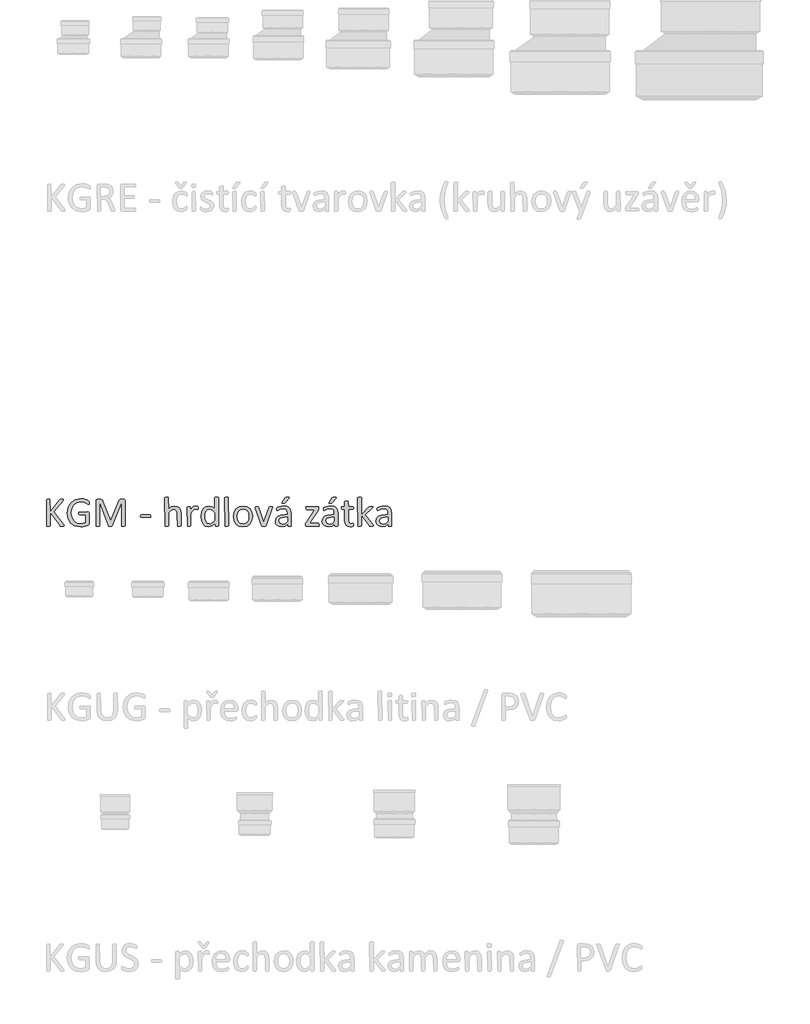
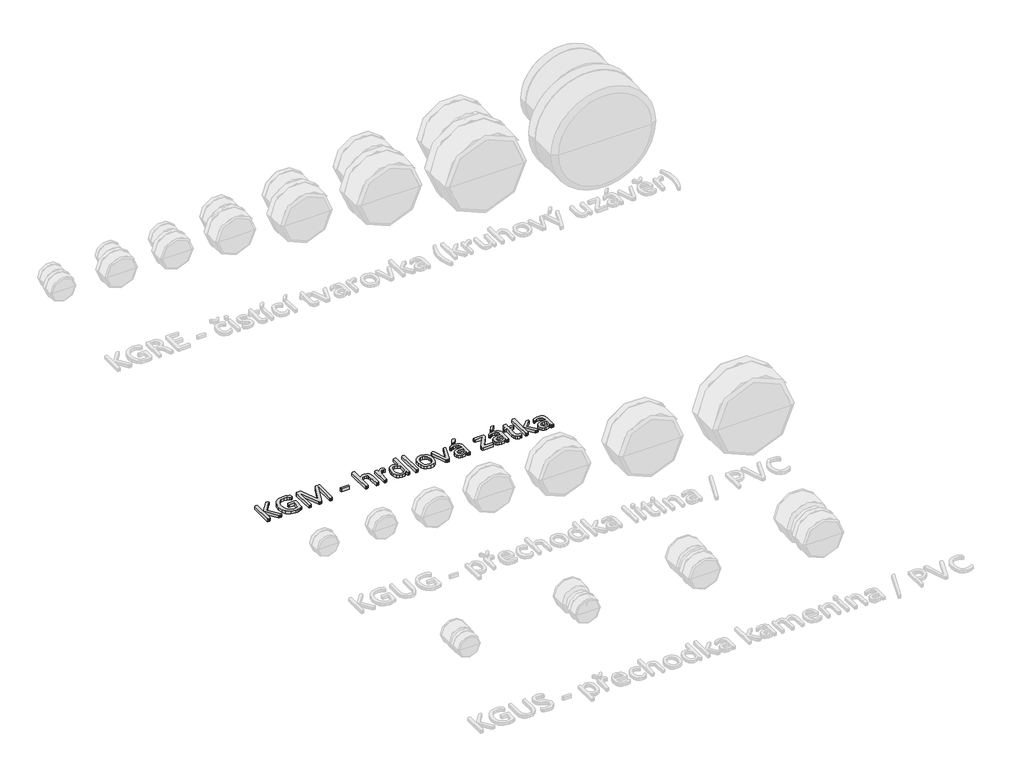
# One storey, part 6 of 11: 1 proxy.
"""IFC4 building model written with IfcOpenShell, lengths in millimetres."""

from ifc_helpers import new_model, si_unit, origin, origin_with_axes, place, context, project, spatial, polyline, outline, extrude, element, save

model = new_model("IFC4")

# Units and contexts
model_context = context("Model", 3, world=origin())
ifc_project = project(units=[si_unit("LENGTHUNIT", "METRE", prefix="MILLI")], contexts=[model_context])

# Site, building, storey
site = spatial("IfcSite", under=ifc_project)
building = spatial("IfcBuilding", under=site)
storey = spatial("IfcBuildingStorey", under=building, Name="Podlaží 1", Elevation=0.0)

# Proxy
placement = place(None, origin())
element("IfcBuildingElementProxy", 1, Name="120mm Arial", ObjectType="120mm Arial", at=placement, inside=storey, context=model_context, shape_type="SweptSolid", body=[
    extrude(outline(polyline([(-20477.3940185, 6417.4794852), (-20478.8234835, 6414.4577047), (-20481.3386182, 6413.8605864), (-20485.4098794, 6413.625358), (-20490.6934717, 6413.8967754), (-20493.7514412, 6414.910067), (-20495.4342292, 6416.592855), (-20539.5486061, 6476.232308), (-20539.5486061, 6416.592855), (-20541.2494886, 6414.4215157), (-20543.7465288, 6413.8605864), (-20547.6549395, 6413.625358), (-20551.5271613, 6413.8605864), (-20554.0603905, 6414.4215157), (-20555.3812885, 6415.3443349), (-20555.3812885, 6531.0948144), (-20551.5271613, 6533.8270831), (-20547.6549395, 6534.0623115), (-20543.7465288, 6533.8270831), (-20541.2494886, 6533.2661537), (-20539.5486061, 6478.0779464), (-20497.0989227, 6531.0948144), (-20495.7780246, 6532.4880905), (-20493.9866697, 6533.3747207), (-20491.399157, 6533.8813665), (-20487.4364628, 6534.0623115), (-20483.564241, 6533.8270831), (-20481.1938622, 6533.2299647), (-20480.2529486, 6528.7063412), (-20482.5509493, 6525.3769543), (-20522.3226476, 6478.0779464), (-20479.4748853, 6421.4783685), (-20477.3940185, 6417.4794852)])), origin_with_axes(), (0.0, 0.0, 1.0), 15.0),
    extrude(outline(polyline([(-20365.8414616, 6518.2839125), (-20366.0224065, 6515.0088091), (-20366.5833359, 6512.6384303), (-20367.5242496, 6511.2994378), (-20372.4278575, 6512.7108083), (-20379.4123323, 6516.691597), (-20389.8709499, 6520.6723858), (-20404.3103563, 6522.4818352), (-20422.1696221, 6518.8086529), (-20435.5595478, 6508.6395471), (-20443.9734876, 6493.2049435), (-20446.9047957, 6473.8076457), (-20443.7020702, 6453.0713554), (-20434.8176736, 6437.8176967), (-20421.2648974, 6428.4085597), (-20404.0208444, 6425.2058343), (-20392.693691, 6426.5267323), (-20382.0541284, 6430.4532376), (-20382.0541284, 6464.5794537), (-20409.0873028, 6464.5794537), (-20411.403398, 6466.2622416), (-20412.1633668, 6471.4915505), (-20411.9824219, 6474.6761815), (-20411.3853036, 6476.8475208), (-20371.4145658, 6478.4760252), (-20369.406077, 6478.1141354), (-20367.578533, 6477.0103712), (-20366.293824, 6474.9656934), (-20365.8414616, 6471.9981963), (-20365.8414616, 6426.4000709), (-20366.6738083, 6422.2202427), (-20370.2022347, 6419.1260842), (-20377.1505205, 6416.2128706), (-20385.9444447, 6413.5348855), (-20395.1183533, 6411.870192), (-20404.2741673, 6411.3092627), (-20429.1179079, 6415.6881303), (-20447.610481, 6428.1552368), (-20459.1366738, 6447.5163456), (-20463.1174625, 6472.7219761), (-20458.8290674, 6498.9589927), (-20446.7238508, 6518.9895978), (-20427.9598603, 6531.8185942), (-20403.7313325, 6536.3784067), (-20390.8842416, 6535.2022646), (-20380.20849, 6532.4519015), (-20372.3554795, 6529.0139476), (-20367.9766119, 6525.9740726), (-20366.3119185, 6523.1151425), (-20365.8414616, 6518.2839125)])), origin_with_axes(), (0.0, 0.0, 1.0), 15.0),
    extrude(outline(polyline([(-20206.0308887, 6416.592855), (-20207.7679601, 6414.4215157), (-20210.2469058, 6413.8605864), (-20214.1734111, 6413.625358), (-20218.0275383, 6413.8605864), (-20220.5607675, 6414.4215157), (-20222.2435555, 6520.9980867), (-20263.6437583, 6416.1223982), (-20265.9236645, 6414.2405708), (-20268.2397598, 6413.7701139), (-20271.4243908, 6413.625358), (-20274.7718722, 6413.8063029), (-20277.106062, 6414.3129487), (-20278.5536215, 6415.1091065), (-20319.4471784, 6520.9980867), (-20319.4471784, 6416.592855), (-20321.2566278, 6414.4215157), (-20323.789857, 6413.8605864), (-20327.7706458, 6413.625358), (-20331.6428675, 6413.8605864), (-20334.1218132, 6414.4215157), (-20335.7322232, 6526.8245138), (-20333.6513564, 6532.397618), (-20329.0010714, 6534.0623115), (-20319.1214775, 6534.0623115), (-20313.8016962, 6533.5013822), (-20309.8209075, 6531.7462162), (-20306.9800719, 6528.6882467), (-20304.9715831, 6524.3274736), (-20270.8815559, 6437.5100903), (-20235.7782372, 6524.0741507), (-20233.4983309, 6528.7968137), (-20230.7841568, 6531.8909722), (-20227.5090533, 6533.5556656), (-20223.3292251, 6534.0623115), (-20212.9791744, 6534.0623115), (-20210.2469058, 6533.6461381), (-20208.0755665, 6532.3433345), (-20206.6099125, 6530.1177117), (-20206.0308887, 6526.8245138), (-20206.0308887, 6416.592855)])), origin_with_axes(), (0.0, 0.0, 1.0), 15.0),
    extrude(outline(polyline([(-20092.5422209, 6458.8254045), (-20093.3926622, 6454.265592), (-20095.8716079, 6452.9989774), (-20135.4623612, 6452.9989774), (-20138.0136849, 6454.301781), (-20138.8641261, 6458.8254045), (-20138.0136849, 6463.3128391), (-20135.4623612, 6464.5794537), (-20095.8716079, 6464.5794537), (-20092.7774493, 6461.5395787), (-20092.5422209, 6458.8254045)])), origin_with_axes(), (0.0, 0.0, 1.0), 15.0),
    extrude(outline(polyline([(-19958.2086958, 6416.484288), (-19962.3342405, 6413.8063029), (-19966.2788403, 6413.625358), (-19970.295818, 6413.8063029), (-19972.7385747, 6414.3491377), (-19974.4213627, 6464.8327766), (-19975.4889378, 6476.196119), (-19978.5830963, 6483.6329561), (-19983.8485942, 6488.4099026), (-19991.3216203, 6490.0565015), (-20002.3049783, 6486.0214293), (-20013.7949821, 6474.1695356), (-20013.7949821, 6416.484288), (-20017.9205268, 6413.8063029), (-20021.9375045, 6413.625358), (-20025.8821042, 6413.8063029), (-20028.3791444, 6414.3672322), (-20030.0076489, 6540.3591955), (-20025.8821042, 6543.1457476), (-20021.9375045, 6543.3266925), (-20017.9205268, 6543.1457476), (-20015.47777, 6542.5848183), (-20014.193061, 6541.6439046), (-20013.7949821, 6490.2736355), (-20000.7669462, 6500.5874972), (-19987.5579655, 6503.9530731), (-19973.7337719, 6501.130332), (-19964.6684303, 6493.5849279), (-19959.7105389, 6482.5291919), (-19958.2086958, 6467.2212498), (-19958.2086958, 6416.484288)])), origin_with_axes(), (0.0, 0.0, 1.0), 15.0),
    extrude(outline(polyline([(-19881.7775523, 6494.6886921), (-19881.8680247, 6491.3954941), (-19882.2299146, 6489.2603438), (-19885.7764355, 6488.0480127), (-19888.1106252, 6488.8803594), (-19891.0238388, 6489.6765172), (-19894.5160762, 6490.0565015), (-19898.9311328, 6489.0613044), (-19903.4728508, 6485.8042954), (-19908.4488367, 6479.7969233), (-19914.2028859, 6470.6230147), (-19914.2028859, 6416.4480991), (-19918.3284306, 6413.8063029), (-19922.3454083, 6413.625358), (-19926.290008, 6413.8063029), (-19928.7870482, 6414.3491377), (-19930.4155527, 6498.8142367), (-19926.6880869, 6501.4922219), (-19923.0329991, 6501.6369778), (-19919.4502892, 6501.4922219), (-19917.2427609, 6500.9493871), (-19915.7590124, 6486.7994926), (-19909.4983174, 6495.3762828), (-19903.9433077, 6500.6055917), (-19898.7682823, 6503.2292933), (-19893.5751625, 6503.9530731), (-19890.9333663, 6503.8264116), (-19887.8211133, 6503.3378603), (-19884.8898053, 6502.5236081), (-19883.0441669, 6501.6369778), (-19881.8137413, 6497.945701), (-19881.7775523, 6494.6886921)])), origin_with_axes(), (0.0, 0.0, 1.0), 15.0),
    extrude(outline(polyline([(-19791.775538, 6416.520477), (-19795.1592084, 6413.8063029), (-19798.4705009, 6413.625358), (-19801.9084548, 6413.8063029), (-19804.1521721, 6414.2767598), (-19805.8168655, 6426.5810158), (-19819.2610747, 6415.3443349), (-19834.5147334, 6411.3092627), (-19849.9312424, 6414.910067), (-19860.2631986, 6424.6449049), (-19866.0534368, 6439.0843113), (-19867.8809807, 6456.5454982), (-19865.6010744, 6476.1780245), (-19858.8699226, 6491.1240767), (-19847.8322811, 6500.6236862), (-19832.596717, 6503.9530731), (-19819.4420197, 6500.7141586), (-19807.6625039, 6491.2145492), (-19807.6625039, 6540.3230065), (-19805.9978105, 6542.5305348), (-19803.5007703, 6543.0914641), (-19799.6647375, 6543.3266925), (-19795.6477598, 6543.0914641), (-19793.2050031, 6542.5305348), (-19791.884105, 6541.6077156), (-19791.775538, 6416.520477)]), holes=[polyline([(-19807.6625039, 6474.7123704), (-19819.2791692, 6486.1299963), (-19830.9682125, 6490.0565015), (-19840.5582944, 6487.3061384), (-19846.9637454, 6480.0502462), (-19850.5464552, 6469.8449515), (-19851.6683139, 6458.2825697), (-19850.7274002, 6446.0506916), (-19847.4522967, 6435.447318), (-19841.2639797, 6428.0104809), (-19831.5834253, 6425.2058343), (-19825.9017541, 6426.0200865), (-19820.2924609, 6428.7161661), (-19814.3031833, 6433.6016796), (-19807.6625039, 6441.0204222), (-19807.6625039, 6474.7123704)])]), origin_with_axes(), (0.0, 0.0, 1.0), 15.0),
    extrude(outline(polyline([(-19747.4440272, 6416.484288), (-19751.5695719, 6413.8063029), (-19755.5865496, 6413.625358), (-19759.5311493, 6413.8063029), (-19762.0281895, 6414.3672322), (-19763.656694, 6540.3591955), (-19759.5311493, 6543.1457476), (-19755.5865496, 6543.3266925), (-19751.5695719, 6543.1457476), (-19749.1268151, 6542.5848183), (-19747.4440272, 6416.484288)])), origin_with_axes(), (0.0, 0.0, 1.0), 15.0),
    extrude(outline(polyline([(-19640.9036452, 6458.5358926), (-19643.5816304, 6439.5547682), (-19651.5974913, 6424.608716), (-19664.951228, 6414.8195946), (-19683.5342736, 6411.3092627), (-19701.4478229, 6414.4034212), (-19714.1863468, 6423.3963848), (-19721.7860344, 6437.7272243), (-19724.2830746, 6456.8350102), (-19721.6412784, 6475.8161346), (-19713.679701, 6490.7440923), (-19700.3802477, 6500.4789302), (-19681.7610132, 6503.9530731), (-19663.8293694, 6500.8589146), (-19651.0908455, 6491.865951), (-19643.4549689, 6477.5351115), (-19640.9036452, 6458.5358926)]), holes=[polyline([(-19657.116312, 6457.450223), (-19658.3648321, 6470.0258964), (-19662.4722823, 6480.4121361), (-19670.1986314, 6487.4689889), (-19682.376226, 6490.0565015), (-19693.9386078, 6487.6861228), (-19701.9001852, 6480.9911599), (-19706.5504702, 6470.7496762), (-19708.0704078, 6457.8121128), (-19706.8218877, 6445.1640614), (-19702.6782485, 6434.8140107), (-19694.897616, 6427.7933469), (-19682.7381159, 6425.2058343), (-19671.211923, 6427.576213), (-19663.1960621, 6434.2168924), (-19658.5819661, 6444.4221871), (-19657.116312, 6457.450223)])]), origin_with_axes(), (0.0, 0.0, 1.0), 15.0),
    extrude(outline(polyline([(-19551.5439855, 6500.0446623), (-19580.0337667, 6416.9185559), (-19581.0108694, 6415.2719569), (-19582.8203188, 6414.2767598), (-19585.8782883, 6413.7701139), (-19590.5285733, 6413.625358), (-19595.1426693, 6413.8063029), (-19598.1644499, 6414.3491377), (-19599.9738993, 6415.3624294), (-19600.987191, 6416.9185559), (-19629.3593579, 6495.1591489), (-19629.9564762, 6497.0590708), (-19626.3556719, 6501.5465054), (-19622.772962, 6501.6369778), (-19618.4664724, 6501.4922219), (-19615.9694322, 6500.985576), (-19613.8704709, 6498.7056698), (-19590.3114394, 6430.8151275), (-19566.390518, 6498.7056698), (-19564.4182182, 6500.985576), (-19561.9935559, 6501.4922219), (-19557.9584837, 6501.6369778), (-19554.4300573, 6501.5465054), (-19551.5439855, 6500.0446623)])), origin_with_axes(), (0.0, 0.0, 1.0), 15.0),
    extrude(outline(polyline([(-19495.0258328, 6540.0334946), (-19493.6868403, 6541.6258101), (-19491.8231074, 6542.6029128), (-19489.0908387, 6543.1457476), (-19485.182428, 6543.3266925), (-19480.8397494, 6543.0190861), (-19478.5236541, 6542.1324559), (-19478.776977, 6539.2011478), (-19496.0753135, 6518.3924795), (-19497.4685895, 6516.9630144), (-19498.8980546, 6516.1125732), (-19500.9970159, 6515.6602109), (-19504.2178359, 6515.5335494), (-19507.5472228, 6515.8049668), (-19509.2842943, 6516.5287466), (-19508.8862154, 6519.3695822), (-19495.0258328, 6540.0334946)])), origin_with_axes(), (0.0, 0.0, 1.0), 15.0),
    extrude(outline(polyline([(-19469.512596, 6416.4119101), (-19470.3087537, 6414.7291221), (-19472.480093, 6413.8967754), (-19476.5332597, 6413.625358), (-19480.6407099, 6413.8967754), (-19482.8663327, 6414.7291221), (-19483.5539235, 6416.4119101), (-19483.5539235, 6424.7353774), (-19495.7496126, 6415.1091065), (-19510.008074, 6411.3092627), (-19521.9685347, 6413.0282397), (-19531.0700653, 6418.0042256), (-19536.9145869, 6426.001992), (-19538.9954538, 6436.7863106), (-19536.1184292, 6449.0543776), (-19527.8673398, 6457.7035459), (-19514.7126425, 6462.8604767), (-19497.1971721, 6464.5794537), (-19485.7252628, 6464.5794537), (-19485.7252628, 6471.4915505), (-19486.7385545, 6480.5387976), (-19489.9955634, 6487.0890045), (-19495.8038961, 6491.0336042), (-19504.5797258, 6492.3725968), (-19514.6221701, 6490.9250373), (-19522.4028026, 6487.7404063), (-19527.9940013, 6484.5557753), (-19531.3233882, 6483.1082158), (-19534.1823183, 6486.6366421), (-19534.3632633, 6489.2965328), (-19534.0375624, 6493.0963766), (-19532.4452469, 6495.7562672), (-19528.1025683, 6498.4704414), (-19521.0095265, 6501.1484265), (-19512.2336968, 6503.1569154), (-19502.6255204, 6503.9530731), (-19487.2452003, 6501.9083953), (-19476.9856221, 6495.9372122), (-19471.2858564, 6486.1842798), (-19469.512596, 6472.5772201), (-19469.512596, 6416.4119101)]), holes=[polyline([(-19485.7252628, 6452.9989774), (-19498.6085427, 6452.9989774), (-19509.3566723, 6451.9314022), (-19516.9382653, 6448.7829602), (-19521.3714164, 6443.7888798), (-19522.782787, 6437.0758225), (-19518.7296203, 6426.7257718), (-19507.3662779, 6422.889739), (-19496.3648254, 6425.9477085), (-19485.7252628, 6435.302562), (-19485.7252628, 6452.9989774)])]), origin_with_axes(), (0.0, 0.0, 1.0), 15.0),
    extrude(outline(polyline([(-19344.4434519, 6420.6098327), (-19344.7329638, 6417.3709183), (-19345.4024601, 6415.16339), (-19400.1383051, 6413.625358), (-19403.3953141, 6415.0005395), (-19404.6619287, 6419.5965411), (-19404.6619287, 6422.925928), (-19404.4809838, 6425.3867792), (-19403.9200544, 6427.540024), (-19402.8705738, 6429.8380248), (-19401.2601638, 6432.6245769), (-19363.8045608, 6487.7404063), (-19400.1383051, 6487.7404063), (-19402.5448729, 6489.3870053), (-19403.4315031, 6494.724881), (-19403.2505582, 6497.8914175), (-19402.6353453, 6500.0989458), (-19401.5858647, 6501.2931825), (-19351.4279267, 6501.6369778), (-19349.5822883, 6501.3474659), (-19348.2252012, 6500.3703632), (-19347.3204765, 6498.5971028), (-19346.9766811, 6495.8467397), (-19346.9766811, 6492.7344867), (-19347.1757206, 6490.183163), (-19347.7547444, 6487.8851622), (-19348.7861306, 6485.4785945), (-19350.378446, 6482.6377589), (-19387.6892931, 6427.5219295), (-19347.8452169, 6427.5219295), (-19344.7329638, 6423.8668417), (-19344.4434519, 6420.6098327)])), origin_with_axes(), (0.0, 0.0, 1.0), 15.0),
    extrude(outline(polyline([(-19286.5772594, 6540.0334946), (-19285.2382669, 6541.6258101), (-19283.374534, 6542.6029128), (-19280.6422653, 6543.1457476), (-19276.7338546, 6543.3266925), (-19272.391176, 6543.0190861), (-19270.0750807, 6542.1324559), (-19270.3284036, 6539.2011478), (-19287.6267401, 6518.3924795), (-19289.0200161, 6516.9630144), (-19290.4494812, 6516.1125732), (-19292.5484425, 6515.6602109), (-19295.7692625, 6515.5335494), (-19299.0986494, 6515.8049668), (-19300.8357209, 6516.5287466), (-19300.437642, 6519.3695822), (-19286.5772594, 6540.0334946)])), origin_with_axes(), (0.0, 0.0, 1.0), 15.0),
    extrude(outline(polyline([(-19261.0640226, 6416.4119101), (-19261.8601803, 6414.7291221), (-19264.0315196, 6413.8967754), (-19268.0846863, 6413.625358), (-19272.1921365, 6413.8967754), (-19274.4177593, 6414.7291221), (-19275.1053501, 6416.4119101), (-19275.1053501, 6424.7353774), (-19287.3010392, 6415.1091065), (-19301.5595006, 6411.3092627), (-19313.5199613, 6413.0282397), (-19322.6214919, 6418.0042256), (-19328.4660135, 6426.001992), (-19330.5468804, 6436.7863106), (-19327.6698558, 6449.0543776), (-19319.4187664, 6457.7035459), (-19306.2640691, 6462.8604767), (-19288.7485987, 6464.5794537), (-19277.2766894, 6464.5794537), (-19277.2766894, 6471.4915505), (-19278.2899811, 6480.5387976), (-19281.54699, 6487.0890045), (-19287.3553227, 6491.0336042), (-19296.1311524, 6492.3725968), (-19306.1735967, 6490.9250373), (-19313.9542292, 6487.7404063), (-19319.5454279, 6484.5557753), (-19322.8748148, 6483.1082158), (-19325.7337449, 6486.6366421), (-19325.9146899, 6489.2965328), (-19325.588989, 6493.0963766), (-19323.9966735, 6495.7562672), (-19319.6539949, 6498.4704414), (-19312.5609531, 6501.1484265), (-19303.7851234, 6503.1569154), (-19294.176947, 6503.9530731), (-19278.7966269, 6501.9083953), (-19268.5370487, 6495.9372122), (-19262.837283, 6486.1842798), (-19261.0640226, 6472.5772201), (-19261.0640226, 6416.4119101)]), holes=[polyline([(-19277.2766894, 6452.9989774), (-19290.1599693, 6452.9989774), (-19300.9080988, 6451.9314022), (-19308.4896919, 6448.7829602), (-19312.922843, 6443.7888798), (-19314.3342136, 6437.0758225), (-19310.2810469, 6426.7257718), (-19298.9177045, 6422.889739), (-19287.916252, 6425.9477085), (-19277.2766894, 6435.302562), (-19277.2766894, 6452.9989774)])]), origin_with_axes(), (0.0, 0.0, 1.0), 15.0),
    extrude(outline(polyline([(-19191.5811648, 6421.9488253), (-19191.9430547, 6417.4252017), (-19193.0468188, 6414.9643505), (-19195.2543471, 6413.480602), (-19198.6018285, 6412.3406489), (-19202.6007118, 6411.5987746), (-19206.8167289, 6411.3092627), (-19217.8362759, 6413.0644286), (-19225.345491, 6418.3661154), (-19229.6157916, 6427.3590791), (-19230.9547842, 6440.2242645), (-19230.9547842, 6490.0565015), (-19241.9562367, 6490.0565015), (-19244.0732925, 6491.4135886), (-19244.8513558, 6495.8105507), (-19244.6342218, 6498.5066303), (-19244.0732925, 6500.3341743), (-19230.9547842, 6501.6369778), (-19230.9547842, 6521.7942444), (-19229.3262797, 6524.0017727), (-19226.8292395, 6524.6169855), (-19222.8846398, 6524.7979304), (-19218.8676621, 6524.6169855), (-19216.4249053, 6524.0017727), (-19215.1401963, 6523.0065755), (-19214.7421174, 6501.6369778), (-19194.4762839, 6501.6369778), (-19191.7621097, 6498.5066303), (-19191.5811648, 6495.8105507), (-19192.3773225, 6491.4135886), (-19194.4762839, 6490.0565015), (-19214.7421174, 6490.0565015), (-19214.7421174, 6442.8660606), (-19212.3355496, 6429.6751743), (-19203.7044759, 6425.2058343), (-19200.1036716, 6425.6220076), (-19197.299025, 6426.4905433), (-19195.1819691, 6427.3771736), (-19193.6077481, 6427.8114414), (-19191.7621097, 6424.8801334), (-19191.5811648, 6421.9488253)])), origin_with_axes(), (0.0, 0.0, 1.0), 15.0),
    extrude(outline(polyline([(-19103.5695449, 6416.556666), (-19107.6408061, 6413.8063029), (-19111.6396893, 6413.625358), (-19115.765234, 6413.7701139), (-19118.5155971, 6414.2224763), (-19120.3250465, 6415.127201), (-19121.5916611, 6416.556666), (-19156.8397359, 6462.1186025), (-19156.8397359, 6416.4480991), (-19160.9652806, 6413.8063029), (-19164.9822583, 6413.625358), (-19168.926858, 6413.8063029), (-19171.4238982, 6414.3672322), (-19173.0524027, 6540.3591955), (-19168.926858, 6543.1457476), (-19164.9822583, 6543.3266925), (-19160.9652806, 6543.1457476), (-19158.5225238, 6542.5848183), (-19157.2378148, 6541.6439046), (-19156.8397359, 6464.2175638), (-19124.6315362, 6498.4523469), (-19123.0211262, 6499.9541899), (-19120.9945428, 6500.9493871), (-19118.2079907, 6501.4922219), (-19114.3176745, 6501.6369778), (-19110.3368857, 6501.4922219), (-19107.7493731, 6501.0398595), (-19106.319908, 6500.2256073), (-19106.5189475, 6496.6971809), (-19108.6360033, 6494.1458572), (-19140.6270691, 6464.3261308), (-19105.8494512, 6420.8631556), (-19104.0942852, 6418.348021), (-19103.5695449, 6416.556666)])), origin_with_axes(), (0.0, 0.0, 1.0), 15.0),
    extrude(outline(polyline([(-19022.5062108, 6416.4119101), (-19023.3023685, 6414.7291221), (-19025.4737079, 6413.8967754), (-19029.5268746, 6413.625358), (-19033.6343247, 6413.8967754), (-19035.8599475, 6414.7291221), (-19036.5475383, 6416.4119101), (-19036.5475383, 6424.7353774), (-19048.7432274, 6415.1091065), (-19063.0016889, 6411.3092627), (-19074.9621495, 6413.0282397), (-19084.0636801, 6418.0042256), (-19089.9082018, 6426.001992), (-19091.9890686, 6436.7863106), (-19089.112044, 6449.0543776), (-19080.8609547, 6457.7035459), (-19067.7062574, 6462.8604767), (-19050.190787, 6464.5794537), (-19038.7188776, 6464.5794537), (-19038.7188776, 6471.4915505), (-19039.7321693, 6480.5387976), (-19042.9891783, 6487.0890045), (-19048.7975109, 6491.0336042), (-19057.5733406, 6492.3725968), (-19067.6157849, 6490.9250373), (-19075.3964174, 6487.7404063), (-19080.9876161, 6484.5557753), (-19084.3170031, 6483.1082158), (-19087.1759331, 6486.6366421), (-19087.3568781, 6489.2965328), (-19087.0311772, 6493.0963766), (-19085.4388617, 6495.7562672), (-19081.0961831, 6498.4704414), (-19074.0031413, 6501.1484265), (-19065.2273116, 6503.1569154), (-19055.6191352, 6503.9530731), (-19040.2388151, 6501.9083953), (-19029.9792369, 6495.9372122), (-19024.2794712, 6486.1842798), (-19022.5062108, 6472.5772201), (-19022.5062108, 6416.4119101)]), holes=[polyline([(-19038.7188776, 6452.9989774), (-19051.6021575, 6452.9989774), (-19062.3502871, 6451.9314022), (-19069.9318801, 6448.7829602), (-19074.3650312, 6443.7888798), (-19075.7764018, 6437.0758225), (-19071.7232351, 6426.7257718), (-19060.3598927, 6422.889739), (-19049.3584402, 6425.9477085), (-19038.7188776, 6435.302562), (-19038.7188776, 6452.9989774)])]), origin_with_axes(), (0.0, 0.0, 1.0), 15.0),
])

save(model, "model.ifc")
